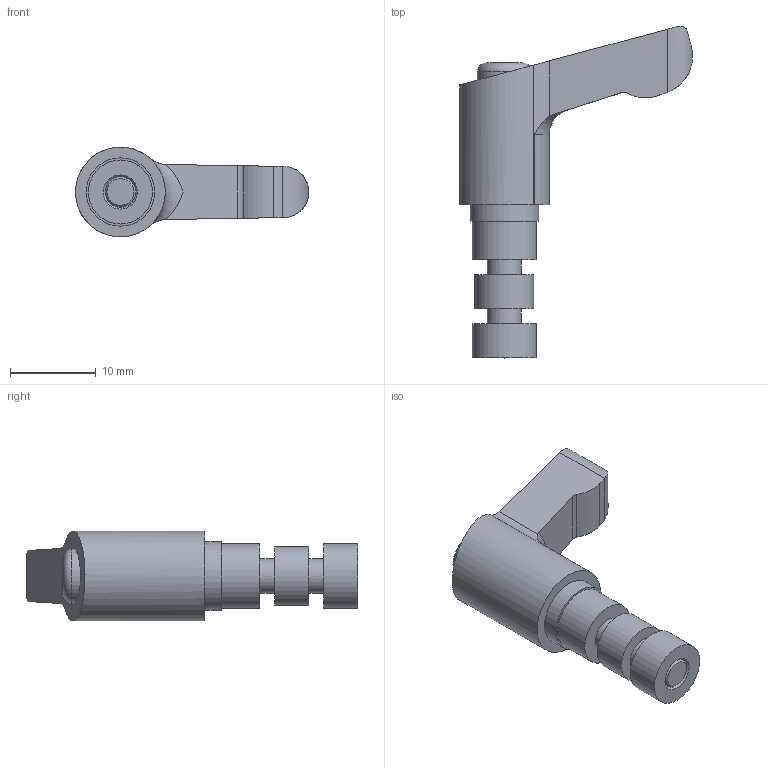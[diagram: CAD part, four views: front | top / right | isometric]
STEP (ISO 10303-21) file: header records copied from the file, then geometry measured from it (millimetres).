
FILE_DESCRIPTION( ( 'STEP AP203' ), '1' );
FILE_NAME( 'C:/Temp/Ganter_Step_05_03_2020/data/3_7/511_1/gn_511_1_k/Swivel clamp mounting GN 511.1-M4-16-K.stp', '2020-03-12T14:38:03', ( 'License CC BY-ND 4.0' ), ( 'CADENAS' ), ' ', 'PARTsolutions', ' ' );
FILE_SCHEMA( ( 'CONFIG_CONTROL_DESIGN' ) );
Length unit declared in the file: millimetre
Products named in the file (1): _Swivel clamp mounting GN 511.1-M4-16-K
Bounding box: 27.25 x 38.82 x 10.5 mm (x, y, z)
Volume: 2695.6 mm3; surface area: 1683.5 mm2
Topology: 1 solids, 1 shells, 51 faces, 119 edges, 80 vertices
Faces by surface type: cylinder 30, plane 17, cone 2, torus 2
Full cylindrical faces by diameter (mm): 4 x2, 6.3 x1, 6.5 x1, 6.9 x1, 7.5 x2, 8 x1
Entity records: 1557 total; most frequent: CARTESIAN_POINT 364, DIRECTION 257, ORIENTED_EDGE 210, AXIS2_PLACEMENT_3D 112, EDGE_CURVE 105, VERTEX_POINT 77, EDGE_LOOP 72, FACE_OUTER_BOUND 60
